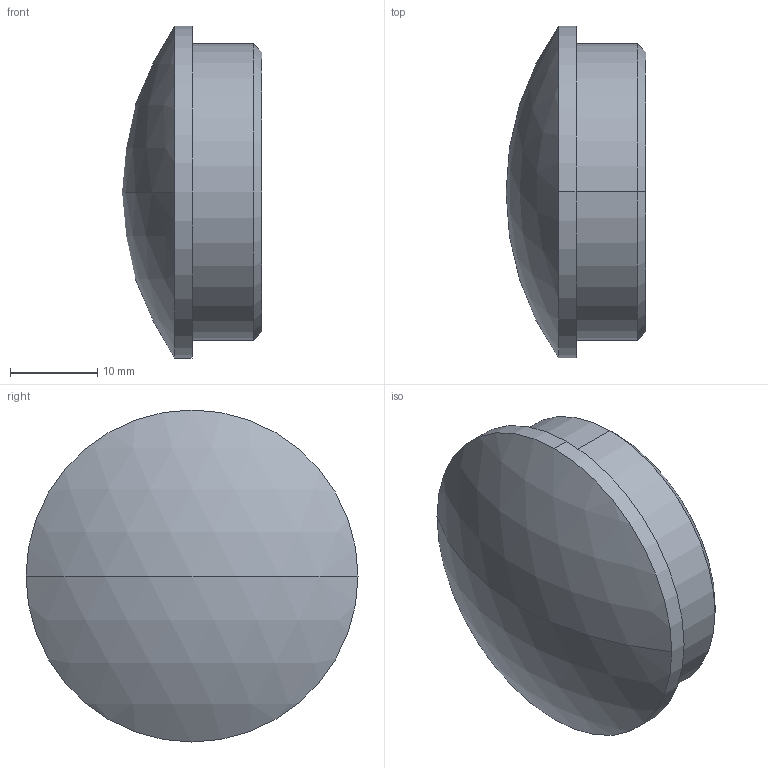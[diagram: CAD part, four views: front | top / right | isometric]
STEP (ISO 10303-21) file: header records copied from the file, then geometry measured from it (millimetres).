
FILE_DESCRIPTION (( 'STEP AP203' ), '1' );
FILE_NAME ('3D_GR1392_DN38x2_18380200.STEP', '2024-09-21T10:17:57', ( '' ), ( '' ), 'SwSTEP 2.0', 'SolidWorks 2024', '' );
FILE_SCHEMA (( 'CONFIG_CONTROL_DESIGN' ));
Length unit declared in the file: millimetre
Products named in the file (1): 3D_GR1392_DN38x2_18380200
Bounding box: 16 x 38 x 38 mm (x, y, z)
Volume: 12994.7 mm3; surface area: 3410.7 mm2
Topology: 1 solids, 1 shells, 10 faces, 20 edges, 13 vertices
Faces by surface type: cylinder 4, cone 2, sphere 2, plane 2
Entity records: 347 total; most frequent: DIRECTION 56, CARTESIAN_POINT 44, ORIENTED_EDGE 40, AXIS2_PLACEMENT_3D 25, EDGE_CURVE 20, CIRCLE 14, VERTEX_POINT 13, EDGE_LOOP 11
